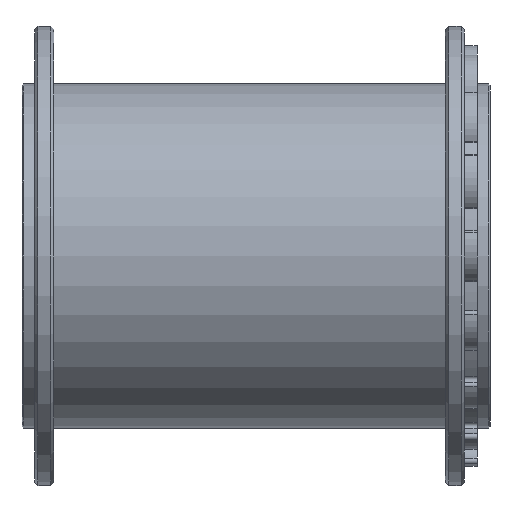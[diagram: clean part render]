
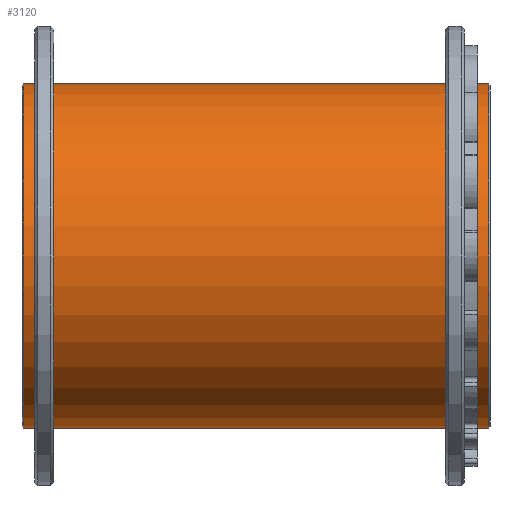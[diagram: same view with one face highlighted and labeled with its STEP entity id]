
A CAD part, front view. The second image highlights one B-rep face of the part: STEP entity #3120.
In plain terms, the highlighted cylindrical face has radius 270 mm (diameter 540 mm), a full revolution.
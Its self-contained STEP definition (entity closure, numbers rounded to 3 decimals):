
#37=B_SPLINE_CURVE_WITH_KNOTS('',3,(#5116,#5117,#5118,#5119,#5120,#5121,
#5122,#5123,#5124,#5125,#5126,#5127,#5128,#5129,#5130,#5131,#5132,#5133),
 .UNSPECIFIED.,.F.,.F.,(4,2,2,2,2,2,2,2,4),(1.959,2.449,
2.939,3.428,3.918,4.408,4.898,
5.388,5.877),.UNSPECIFIED.);
#38=B_SPLINE_CURVE_WITH_KNOTS('',3,(#5134,#5135,#5136,#5137,#5138,#5139,
#5140,#5141,#5142,#5143,#5144,#5145,#5146,#5147,#5148,#5149,#5150,#5151,
#5152),.UNSPECIFIED.,.F.,.F.,(4,2,2,2,3,2,2,2,4),(5.877,6.367,
6.857,7.347,7.836,8.326,8.816,
9.306,9.795),.UNSPECIFIED.);
#62=FACE_BOUND('',#457,.T.);
#103=CYLINDRICAL_SURFACE('',#3423,270.);
#251=FACE_OUTER_BOUND('',#456,.T.);
#456=EDGE_LOOP('',(#2249,#2250,#2251,#2252,#2253,#2254));
#457=EDGE_LOOP('',(#2255,#2256));
#660=LINE('',#5245,#846);
#846=VECTOR('',#4029,270.);
#1037=CIRCLE('',#3420,270.);
#1038=CIRCLE('',#3421,270.);
#1040=CIRCLE('',#3424,270.);
#1041=CIRCLE('',#3425,270.);
#1344=VERTEX_POINT('',#5114);
#1345=VERTEX_POINT('',#5115);
#1350=VERTEX_POINT('',#5233);
#1351=VERTEX_POINT('',#5234);
#1353=VERTEX_POINT('',#5241);
#1354=VERTEX_POINT('',#5242);
#1675=EDGE_CURVE('',#1344,#1345,#37,.T.);
#1676=EDGE_CURVE('',#1345,#1344,#38,.T.);
#1699=EDGE_CURVE('',#1350,#1351,#1037,.T.);
#1700=EDGE_CURVE('',#1351,#1350,#1038,.T.);
#1703=EDGE_CURVE('',#1353,#1354,#1040,.T.);
#1704=EDGE_CURVE('',#1354,#1353,#1041,.T.);
#1705=EDGE_CURVE('',#1354,#1351,#660,.T.);
#2249=ORIENTED_EDGE('',*,*,#1703,.F.);
#2250=ORIENTED_EDGE('',*,*,#1704,.F.);
#2251=ORIENTED_EDGE('',*,*,#1705,.T.);
#2252=ORIENTED_EDGE('',*,*,#1699,.F.);
#2253=ORIENTED_EDGE('',*,*,#1700,.F.);
#2254=ORIENTED_EDGE('',*,*,#1705,.F.);
#2255=ORIENTED_EDGE('',*,*,#1675,.T.);
#2256=ORIENTED_EDGE('',*,*,#1676,.T.);
#3120=ADVANCED_FACE('',(#251,#62),#103,.T.);
#3420=AXIS2_PLACEMENT_3D('',#5235,#4016,#4017);
#3421=AXIS2_PLACEMENT_3D('',#5236,#4018,#4019);
#3423=AXIS2_PLACEMENT_3D('',#5240,#4023,#4024);
#3424=AXIS2_PLACEMENT_3D('',#5243,#4025,#4026);
#3425=AXIS2_PLACEMENT_3D('',#5244,#4027,#4028);
#4016=DIRECTION('center_axis',(-1.,0.,0.));
#4017=DIRECTION('ref_axis',(0.,-1.,0.));
#4018=DIRECTION('center_axis',(-1.,0.,0.));
#4019=DIRECTION('ref_axis',(0.,-1.,0.));
#4023=DIRECTION('center_axis',(1.,0.,0.));
#4024=DIRECTION('ref_axis',(0.,1.,0.));
#4025=DIRECTION('center_axis',(1.,0.,0.));
#4026=DIRECTION('ref_axis',(0.,-1.,0.));
#4027=DIRECTION('center_axis',(1.,0.,0.));
#4028=DIRECTION('ref_axis',(0.,-1.,0.));
#4029=DIRECTION('',(-1.,0.,0.));
#5114=CARTESIAN_POINT('',(297.,270.,0.));
#5115=CARTESIAN_POINT('',(323.,270.,0.));
#5116=CARTESIAN_POINT('Ctrl Pts',(297.,270.,0.));
#5117=CARTESIAN_POINT('Ctrl Pts',(297.,270.,-1.633));
#5118=CARTESIAN_POINT('Ctrl Pts',(297.326,269.984,-3.374));
#5119=CARTESIAN_POINT('Ctrl Pts',(298.653,269.925,-6.577));
#5120=CARTESIAN_POINT('Ctrl Pts',(299.654,269.883,-8.038));
#5121=CARTESIAN_POINT('Ctrl Pts',(301.962,269.804,-10.346));
#5122=CARTESIAN_POINT('Ctrl Pts',(303.423,269.762,-11.347));
#5123=CARTESIAN_POINT('Ctrl Pts',(306.626,269.703,-12.674));
#5124=CARTESIAN_POINT('Ctrl Pts',(308.367,269.687,-13.));
#5125=CARTESIAN_POINT('Ctrl Pts',(311.633,269.687,-13.));
#5126=CARTESIAN_POINT('Ctrl Pts',(313.374,269.703,-12.674));
#5127=CARTESIAN_POINT('Ctrl Pts',(316.577,269.762,-11.347));
#5128=CARTESIAN_POINT('Ctrl Pts',(318.038,269.804,-10.346));
#5129=CARTESIAN_POINT('Ctrl Pts',(320.346,269.883,-8.038));
#5130=CARTESIAN_POINT('Ctrl Pts',(321.347,269.925,-6.577));
#5131=CARTESIAN_POINT('Ctrl Pts',(322.674,269.984,-3.374));
#5132=CARTESIAN_POINT('Ctrl Pts',(323.,270.,-1.633));
#5133=CARTESIAN_POINT('Ctrl Pts',(323.,270.,0.));
#5134=CARTESIAN_POINT('Ctrl Pts',(323.,270.,0.));
#5135=CARTESIAN_POINT('Ctrl Pts',(323.,270.,1.633));
#5136=CARTESIAN_POINT('Ctrl Pts',(322.674,269.984,3.374));
#5137=CARTESIAN_POINT('Ctrl Pts',(321.347,269.925,6.577));
#5138=CARTESIAN_POINT('Ctrl Pts',(320.346,269.883,8.038));
#5139=CARTESIAN_POINT('Ctrl Pts',(318.038,269.804,10.346));
#5140=CARTESIAN_POINT('Ctrl Pts',(316.577,269.762,11.347));
#5141=CARTESIAN_POINT('Ctrl Pts',(313.374,269.703,12.674));
#5142=CARTESIAN_POINT('Ctrl Pts',(311.633,269.687,13.));
#5143=CARTESIAN_POINT('Ctrl Pts',(310.,269.687,13.));
#5144=CARTESIAN_POINT('Ctrl Pts',(308.367,269.687,13.));
#5145=CARTESIAN_POINT('Ctrl Pts',(306.626,269.703,12.674));
#5146=CARTESIAN_POINT('Ctrl Pts',(303.423,269.762,11.347));
#5147=CARTESIAN_POINT('Ctrl Pts',(301.962,269.804,10.346));
#5148=CARTESIAN_POINT('Ctrl Pts',(299.654,269.883,8.038));
#5149=CARTESIAN_POINT('Ctrl Pts',(298.653,269.925,6.577));
#5150=CARTESIAN_POINT('Ctrl Pts',(297.326,269.984,3.374));
#5151=CARTESIAN_POINT('Ctrl Pts',(297.,270.,1.633));
#5152=CARTESIAN_POINT('Ctrl Pts',(297.,270.,0.));
#5233=CARTESIAN_POINT('',(2.,270.,0.));
#5234=CARTESIAN_POINT('',(2.,-270.,0.));
#5235=CARTESIAN_POINT('Origin',(2.,0.,0.));
#5236=CARTESIAN_POINT('Origin',(2.,0.,0.));
#5240=CARTESIAN_POINT('Origin',(367.,0.,0.));
#5241=CARTESIAN_POINT('',(732.,270.,0.));
#5242=CARTESIAN_POINT('',(732.,-270.,0.));
#5243=CARTESIAN_POINT('Origin',(732.,0.,0.));
#5244=CARTESIAN_POINT('Origin',(732.,0.,0.));
#5245=CARTESIAN_POINT('',(367.,-270.,0.));
